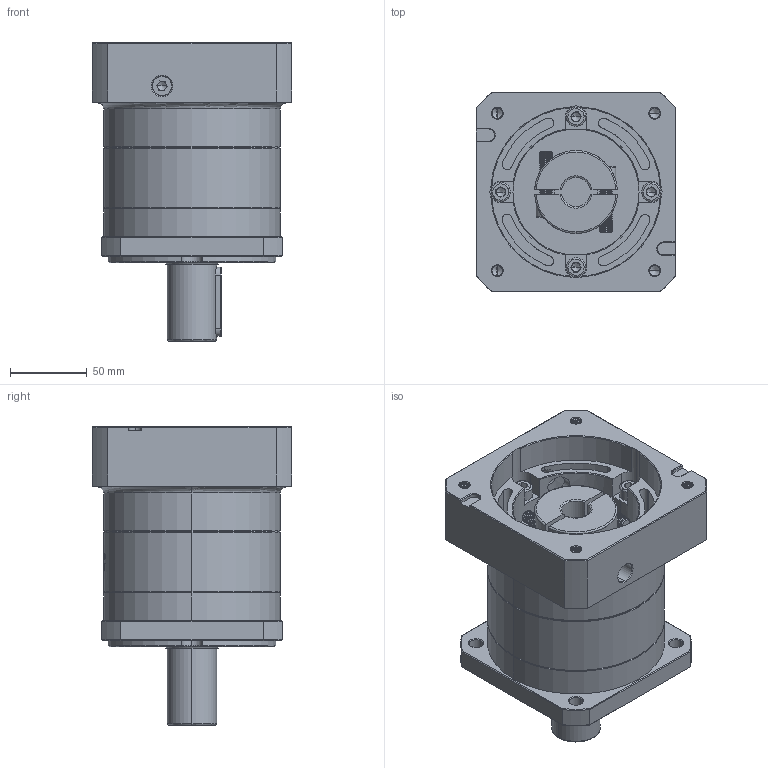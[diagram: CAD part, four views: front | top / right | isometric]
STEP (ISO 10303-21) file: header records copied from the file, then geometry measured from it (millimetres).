
FILE_DESCRIPTION (( 'STEP AP214' ), '1' );
FILE_NAME ('ZF120A-D32-L1-P2-19-110-145-M8.step', '2023-08-27T04:43:13', ( '' ), ( '' ), 'SwSTEP 2.0', 'SolidWorks 2016', '' );
FILE_SCHEMA (( 'AUTOMOTIVE_DESIGN' ));
Length unit declared in the file: millimetre
Products named in the file (1): ZF120A-D32-L1-P2-19-110-145-M8
Bounding box: 130 x 130 x 194 mm (x, y, z)
Volume: 1472616.1 mm3; surface area: 183799.1 mm2
Topology: 6 solids, 6 shells, 2276 faces, 6078 edges, 3901 vertices
Faces by surface type: plane 1060, cylinder 449, bspline 421, cone 327, torus 19
Entity records: 126560 total; most frequent: CARTESIAN_POINT 50219, ORIENTED_EDGE 12096, DIRECTION 8810, EDGE_CURVE 6048, VERTEX_POINT 3901, LINE 3172, VECTOR 3172, AXIS2_PLACEMENT_3D 2819
